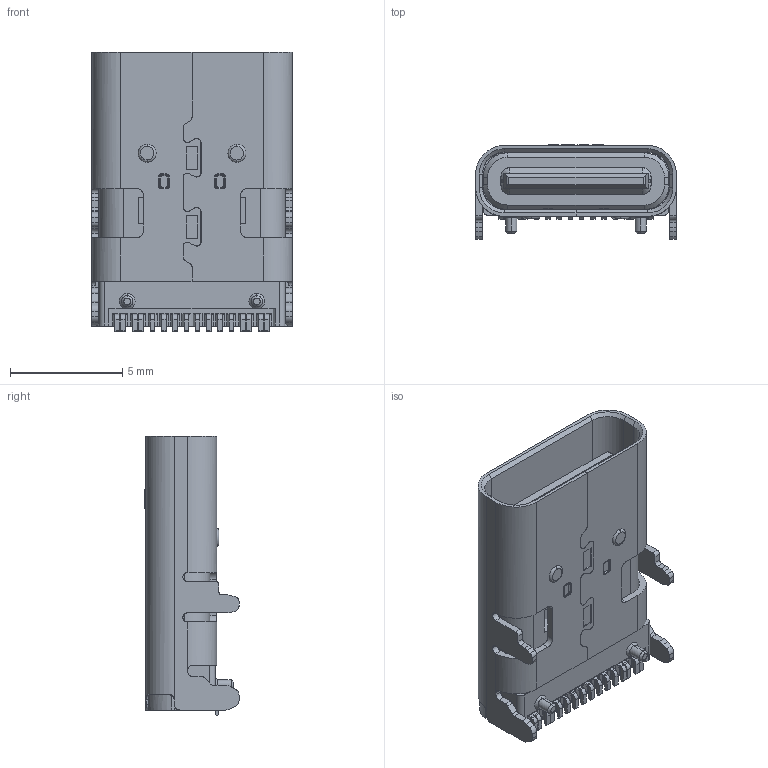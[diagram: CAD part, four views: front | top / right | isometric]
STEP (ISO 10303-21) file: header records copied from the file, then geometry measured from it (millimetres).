
FILE_DESCRIPTION (( 'STEP AP214' ), '1' );
FILE_NAME ('U5166-16PN12.2L.STEP', '2026-06-01T02:16:37', ( '' ), ( '' ), 'SwSTEP 2.0', 'SolidWorks 2024', '' );
FILE_SCHEMA (( 'AUTOMOTIVE_DESIGN' ));
Length unit declared in the file: millimetre
Products named in the file (1): U5166-16PN12.2L
Bounding box: 8.94 x 4.19 x 12.45 mm (x, y, z)
Surface area: 1361.5 mm2 (no closed solid volume)
Topology: 0 solids, 25 shells, 2119 faces, 6156 edges, 4044 vertices
Faces by surface type: plane 1519, cylinder 489, cone 46, bspline 37, torus 28
Entity records: 78181 total; most frequent: CARTESIAN_POINT 34024, ORIENTED_EDGE 12302, EDGE_CURVE 6156, B_SPLINE_CURVE_WITH_KNOTS 6014, DIRECTION 4300, VERTEX_POINT 4044, EDGE_LOOP 2228, ADVANCED_FACE 2119
